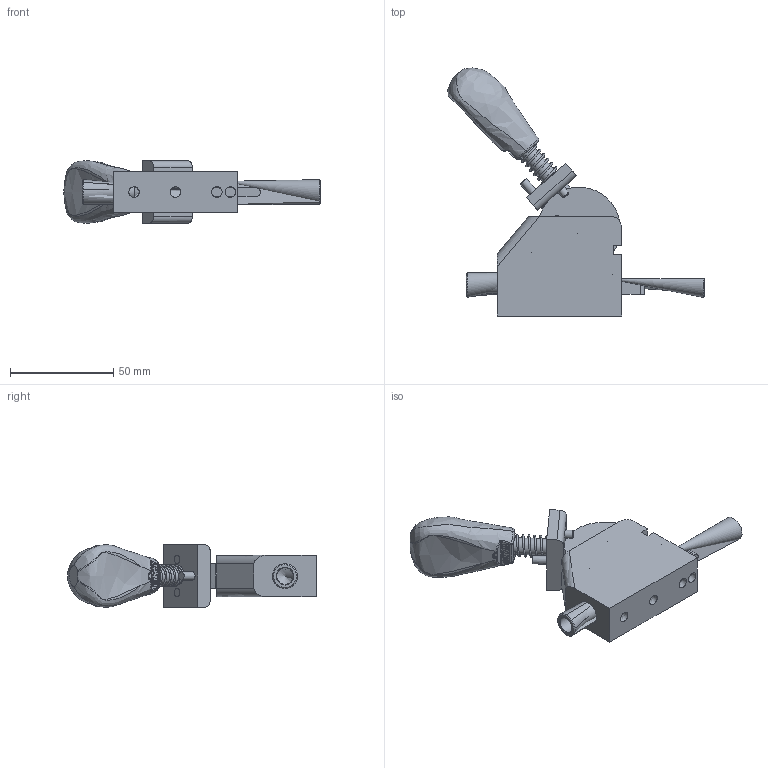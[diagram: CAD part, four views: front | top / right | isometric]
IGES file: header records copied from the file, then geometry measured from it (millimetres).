
Global section: file name: YSP-40ST-L-UNCLAMP; native system: Autodesk Inventor 2019; preprocessor: unknown; author: 桶田 勝弘,,  11,0; organization: 20171006.070826; date: 20240514.163619; units: millimetre
Bounding box: 124 x 119.9 x 30.18 mm (x, y, z)
Volume: 78748.2 mm3; surface area: 33993.8 mm2
Topology: 10 solids, 10 shells, 229 faces, 623 edges, 412 vertices
Faces by surface type: bspline 229
